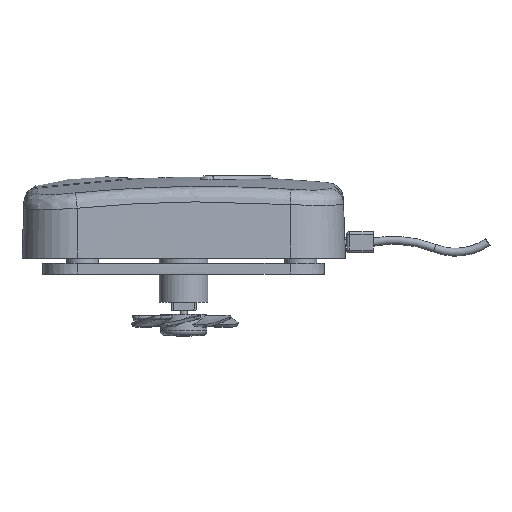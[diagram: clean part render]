
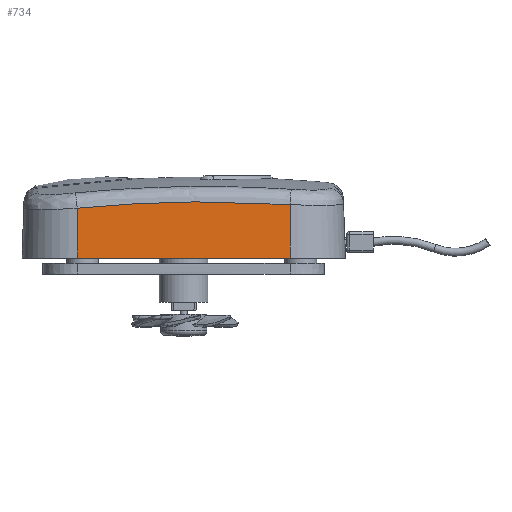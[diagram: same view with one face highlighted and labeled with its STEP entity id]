
A CAD part, left-side view. The second image highlights one B-rep face of the part: STEP entity #734.
In plain terms, the highlighted free-form (B-spline) face has degree [1, 3] with [2, 8] control points.
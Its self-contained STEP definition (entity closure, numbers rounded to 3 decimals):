
#299=B_SPLINE_SURFACE_WITH_KNOTS('',1,3,((#7591,#7592,#7593,#7594,#7595,
#7596,#7597,#7598),(#7599,#7600,#7601,#7602,#7603,#7604,#7605,#7606)),
 .UNSPECIFIED.,.F.,.F.,.F.,(2,2),(4,2,2,4),(0.,1.),(0.,0.01,
0.99,1.),.UNSPECIFIED.);
#446=FACE_OUTER_BOUND('',#1878,.T.);
#734=ADVANCED_FACE('',(#446),#299,.T.);
#1113=B_SPLINE_CURVE_WITH_KNOTS('',3,(#6970,#6971,#6972,#6973,#6974,#6975,
#6976),.UNSPECIFIED.,.F.,.F.,(4,3,4),(0.,0.5,1.),
 .UNSPECIFIED.);
#1149=B_SPLINE_CURVE_WITH_KNOTS('',3,(#7585,#7586,#7587,#7588),
 .UNSPECIFIED.,.F.,.F.,(4,4),(0.,1.),.UNSPECIFIED.);
#1440=LINE('',#7583,#1589);
#1441=LINE('',#7590,#1590);
#1589=VECTOR('',#5046,1.);
#1590=VECTOR('',#5047,1.);
#1878=EDGE_LOOP('',(#2371,#2372,#2373,#2374));
#2371=ORIENTED_EDGE('',*,*,#4081,.T.);
#2372=ORIENTED_EDGE('',*,*,#4082,.T.);
#2373=ORIENTED_EDGE('',*,*,#4083,.T.);
#2374=ORIENTED_EDGE('',*,*,#4031,.T.);
#3594=VERTEX_POINT('',#6969);
#3595=VERTEX_POINT('',#6977);
#3628=VERTEX_POINT('',#7584);
#3629=VERTEX_POINT('',#7589);
#4031=EDGE_CURVE('',#3595,#3594,#1113,.T.);
#4081=EDGE_CURVE('',#3594,#3628,#1440,.T.);
#4082=EDGE_CURVE('',#3628,#3629,#1149,.T.);
#4083=EDGE_CURVE('',#3629,#3595,#1441,.T.);
#5046=DIRECTION('',(0.035,0.,0.999));
#5047=DIRECTION('',(-0.035,0.,-0.999));
#6969=CARTESIAN_POINT('',(-32.848,-20.001,0.));
#6970=CARTESIAN_POINT('',(-32.824,20.001,0.));
#6971=CARTESIAN_POINT('',(-32.847,13.334,0.));
#6972=CARTESIAN_POINT('',(-32.86,6.667,0.));
#6973=CARTESIAN_POINT('',(-32.864,0.,0.));
#6974=CARTESIAN_POINT('',(-32.868,-6.667,0.));
#6975=CARTESIAN_POINT('',(-32.863,-13.334,0.));
#6976=CARTESIAN_POINT('',(-32.848,-20.001,0.));
#6977=CARTESIAN_POINT('',(-32.824,20.001,0.));
#7583=CARTESIAN_POINT('',(-32.745,-20.,2.934));
#7584=CARTESIAN_POINT('',(-32.496,-20.,10.061));
#7585=CARTESIAN_POINT('',(-32.496,-20.,10.061));
#7586=CARTESIAN_POINT('',(-32.496,-6.678,10.925));
#7587=CARTESIAN_POINT('',(-32.496,6.715,10.698));
#7588=CARTESIAN_POINT('',(-32.496,20.,9.385));
#7589=CARTESIAN_POINT('',(-32.496,20.,9.384));
#7590=CARTESIAN_POINT('',(-32.733,20.001,2.595));
#7591=CARTESIAN_POINT('',(-32.45,20.398,10.668));
#7592=CARTESIAN_POINT('',(-32.45,20.266,10.681));
#7593=CARTESIAN_POINT('',(-32.45,20.133,10.694));
#7594=CARTESIAN_POINT('',(-32.45,6.714,12.021));
#7595=CARTESIAN_POINT('',(-32.45,-6.678,12.248));
#7596=CARTESIAN_POINT('',(-32.45,-20.133,11.376));
#7597=CARTESIAN_POINT('',(-32.45,-20.266,11.367));
#7598=CARTESIAN_POINT('',(-32.45,-20.4,11.358));
#7599=CARTESIAN_POINT('',(-33.111,20.401,-8.249));
#7600=CARTESIAN_POINT('',(-33.111,20.268,-8.236));
#7601=CARTESIAN_POINT('',(-33.111,20.135,-8.223));
#7602=CARTESIAN_POINT('',(-33.111,6.715,-6.896));
#7603=CARTESIAN_POINT('',(-33.111,-6.678,-6.669));
#7604=CARTESIAN_POINT('',(-33.111,-20.135,-7.541));
#7605=CARTESIAN_POINT('',(-33.111,-20.268,-7.55));
#7606=CARTESIAN_POINT('',(-33.111,-20.401,-7.559));
